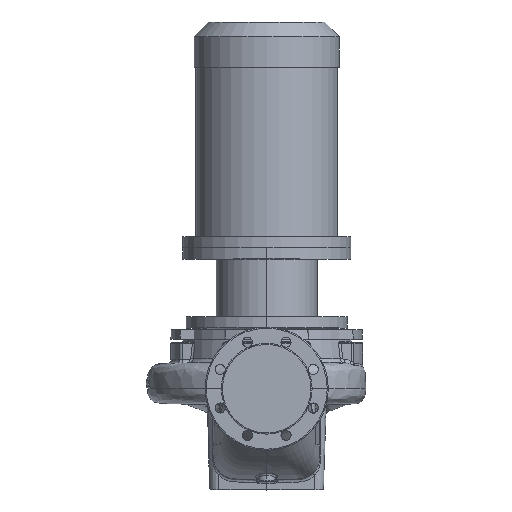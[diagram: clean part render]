
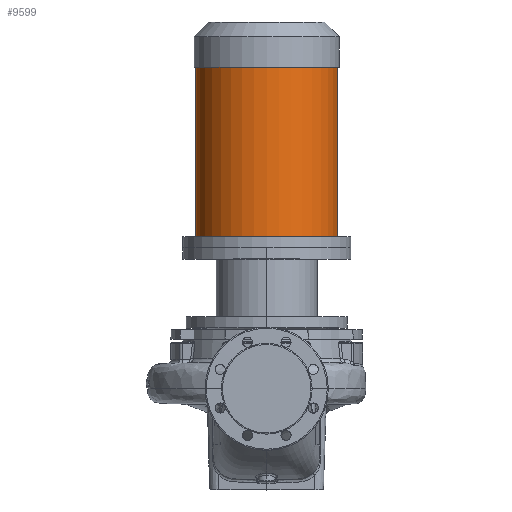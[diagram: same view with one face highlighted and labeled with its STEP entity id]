
A CAD part, top view. The second image highlights one B-rep face of the part: STEP entity #9599.
In plain terms, the highlighted cylindrical face has radius 126.5 mm (diameter 253 mm), a partial arc.
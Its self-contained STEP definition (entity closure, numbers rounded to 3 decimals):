
#1263 = ORIENTED_EDGE ( 'NONE', *, *, #45290, .F. ) ;
#1883 = ORIENTED_EDGE ( 'NONE', *, *, #32204, .T. ) ;
#3950 = DIRECTION ( 'NONE',  ( 0., -1., 0. ) ) ;
#5236 = CARTESIAN_POINT ( 'NONE',  ( 126.5, 573.8, 0. ) ) ;
#5864 = VECTOR ( 'NONE', #15850, 1000. ) ;
#6313 = CARTESIAN_POINT ( 'NONE',  ( 126.5, 271.8, 0. ) ) ;
#9599 = ADVANCED_FACE ( 'NONE', ( #13684 ), #14369, .T. ) ;
#10458 = CARTESIAN_POINT ( 'NONE',  ( 0., 251.8, 0. ) ) ;
#10611 = VECTOR ( 'NONE', #32265, 1000. ) ;
#13684 = FACE_OUTER_BOUND ( 'NONE', #47049, .T. ) ;
#13794 = CARTESIAN_POINT ( 'NONE',  ( 0., 573.8, 0. ) ) ;
#14369 = CYLINDRICAL_SURFACE ( 'NONE', #56967, 126.5 ) ;
#14418 = CARTESIAN_POINT ( 'NONE',  ( -126.5, 271.8, 0. ) ) ;
#15806 = DIRECTION ( 'NONE',  ( 0., -1., 0. ) ) ;
#15850 = DIRECTION ( 'NONE',  ( 0., -1., 0. ) ) ;
#20273 = DIRECTION ( 'NONE',  ( -1., 0., 0. ) ) ;
#20736 = CARTESIAN_POINT ( 'NONE',  ( 126.5, 251.8, 0. ) ) ;
#23076 = ORIENTED_EDGE ( 'NONE', *, *, #43320, .F. ) ;
#25877 = DIRECTION ( 'NONE',  ( 0., -1., 0. ) ) ;
#26024 = LINE ( 'NONE', #45834, #10611 ) ;
#26956 = ORIENTED_EDGE ( 'NONE', *, *, #53419, .T. ) ;
#28249 = VERTEX_POINT ( 'NONE', #5236 ) ;
#30853 = LINE ( 'NONE', #20736, #5864 ) ;
#32204 = EDGE_CURVE ( 'NONE', #36196, #53796, #26024, .T. ) ;
#32265 = DIRECTION ( 'NONE',  ( 0., -1., 0. ) ) ;
#35736 = CARTESIAN_POINT ( 'NONE',  ( -126.5, 573.8, 0. ) ) ;
#36196 = VERTEX_POINT ( 'NONE', #35736 ) ;
#37575 = AXIS2_PLACEMENT_3D ( 'NONE', #13794, #3950, #46608 ) ;
#38127 = CIRCLE ( 'NONE', #44142, 126.5 ) ;
#40070 = CARTESIAN_POINT ( 'NONE',  ( 0., 271.8, 0. ) ) ;
#42161 = VERTEX_POINT ( 'NONE', #6313 ) ;
#43320 = EDGE_CURVE ( 'NONE', #28249, #42161, #30853, .T. ) ;
#44142 = AXIS2_PLACEMENT_3D ( 'NONE', #40070, #25877, #44803 ) ;
#44803 = DIRECTION ( 'NONE',  ( -1., 0., 0. ) ) ;
#45290 = EDGE_CURVE ( 'NONE', #42161, #53796, #38127, .T. ) ;
#45834 = CARTESIAN_POINT ( 'NONE',  ( -126.5, 251.8, 0. ) ) ;
#46608 = DIRECTION ( 'NONE',  ( -1., 0., 0. ) ) ;
#47049 = EDGE_LOOP ( 'NONE', ( #23076, #26956, #1883, #1263 ) ) ;
#53419 = EDGE_CURVE ( 'NONE', #28249, #36196, #56468, .T. ) ;
#53796 = VERTEX_POINT ( 'NONE', #14418 ) ;
#56468 = CIRCLE ( 'NONE', #37575, 126.5 ) ;
#56967 = AXIS2_PLACEMENT_3D ( 'NONE', #10458, #15806, #20273 ) ;
